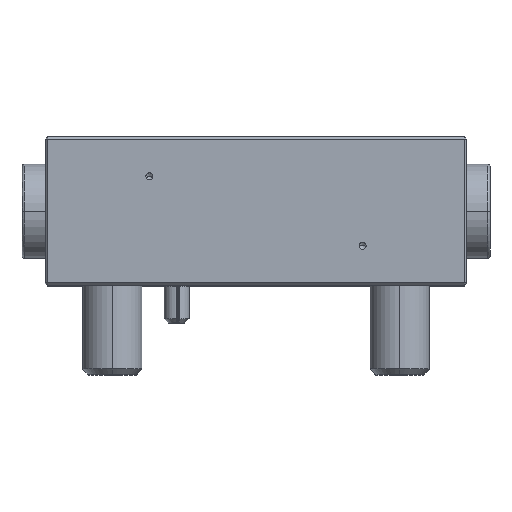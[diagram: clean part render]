
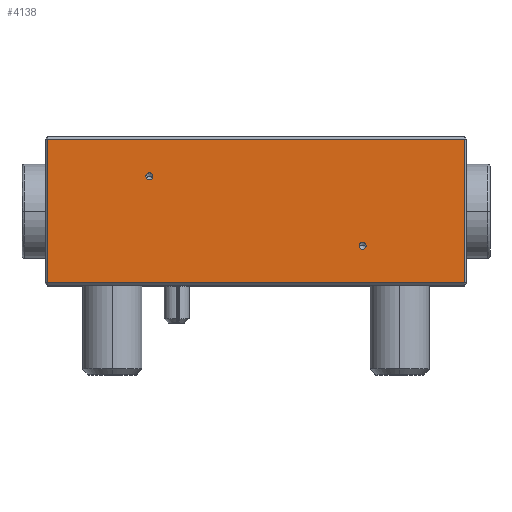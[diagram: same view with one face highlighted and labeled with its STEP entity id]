
A CAD part, top view. The second image highlights one B-rep face of the part: STEP entity #4138.
In plain terms, the highlighted planar face has unit normal (0, 0, 1).
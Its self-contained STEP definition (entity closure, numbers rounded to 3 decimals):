
#76 = VECTOR ( 'NONE', #12325, 1000. ) ;
#177 = EDGE_CURVE ( 'NONE', #11510, #16612, #6841, .T. ) ;
#407 = DIRECTION ( 'NONE',  ( 0., 0., 1. ) ) ;
#1333 = EDGE_LOOP ( 'NONE', ( #9316, #4402, #10310, #13457 ) ) ;
#1381 = VERTEX_POINT ( 'NONE', #16107 ) ;
#1547 = VECTOR ( 'NONE', #8639, 1000. ) ;
#1574 = PLANE ( 'NONE',  #8105 ) ;
#1631 = DIRECTION ( 'NONE',  ( 0., 0., -1. ) ) ;
#1641 = AXIS2_PLACEMENT_3D ( 'NONE', #9896, #2194, #11194 ) ;
#2002 = EDGE_CURVE ( 'NONE', #5449, #1381, #6940, .T. ) ;
#2070 = AXIS2_PLACEMENT_3D ( 'NONE', #9829, #2125, #11114 ) ;
#2094 = EDGE_CURVE ( 'NONE', #16612, #11827, #8778, .T. ) ;
#2119 = EDGE_LOOP ( 'NONE', ( #3107, #4164 ) ) ;
#2125 = DIRECTION ( 'NONE',  ( 0., 0., 1. ) ) ;
#2194 = DIRECTION ( 'NONE',  ( 0., 0., 1. ) ) ;
#2335 = CARTESIAN_POINT ( 'NONE',  ( 20.3, 7., 42.5 ) ) ;
#3107 = ORIENTED_EDGE ( 'NONE', *, *, #6928, .F. ) ;
#3328 = CARTESIAN_POINT ( 'NONE',  ( 85., -14.5, 42.5 ) ) ;
#3848 = CARTESIAN_POINT ( 'NONE',  ( 0.5, -14.5, 42.5 ) ) ;
#4138 = ADVANCED_FACE ( 'NONE', ( #12700, #9318, #5868 ), #1574, .F. ) ;
#4150 = EDGE_CURVE ( 'NONE', #13960, #8136, #14537, .T. ) ;
#4164 = ORIENTED_EDGE ( 'NONE', *, *, #2002, .F. ) ;
#4402 = ORIENTED_EDGE ( 'NONE', *, *, #2094, .T. ) ;
#4633 = CARTESIAN_POINT ( 'NONE',  ( 64., -7., 42.5 ) ) ;
#4751 = CARTESIAN_POINT ( 'NONE',  ( 84.5, -15., 42.5 ) ) ;
#4814 = CARTESIAN_POINT ( 'NONE',  ( 84.5, -14.5, 42.5 ) ) ;
#5449 = VERTEX_POINT ( 'NONE', #10073 ) ;
#5534 = CIRCLE ( 'NONE', #1641, 0.7 ) ;
#5868 = FACE_BOUND ( 'NONE', #2119, .T. ) ;
#5928 = DIRECTION ( 'NONE',  ( 1., 0., 0. ) ) ;
#6452 = LINE ( 'NONE', #10436, #12888 ) ;
#6841 = LINE ( 'NONE', #3328, #76 ) ;
#6863 = VERTEX_POINT ( 'NONE', #9682 ) ;
#6928 = EDGE_CURVE ( 'NONE', #1381, #5449, #5534, .T. ) ;
#6940 = CIRCLE ( 'NONE', #10154, 0.7 ) ;
#7213 = AXIS2_PLACEMENT_3D ( 'NONE', #8052, #407, #9383 ) ;
#7541 = EDGE_CURVE ( 'NONE', #8136, #13960, #13554, .T. ) ;
#8052 = CARTESIAN_POINT ( 'NONE',  ( 21., 7., 42.5 ) ) ;
#8105 = AXIS2_PLACEMENT_3D ( 'NONE', #9323, #1631, #10632 ) ;
#8116 = CARTESIAN_POINT ( 'NONE',  ( 21.7, 7., 42.5 ) ) ;
#8136 = VERTEX_POINT ( 'NONE', #2335 ) ;
#8320 = EDGE_CURVE ( 'NONE', #11827, #6863, #6452, .T. ) ;
#8639 = DIRECTION ( 'NONE',  ( 0., 1., 0. ) ) ;
#8778 = LINE ( 'NONE', #4751, #1547 ) ;
#9194 = ORIENTED_EDGE ( 'NONE', *, *, #7541, .F. ) ;
#9316 = ORIENTED_EDGE ( 'NONE', *, *, #177, .T. ) ;
#9318 = FACE_BOUND ( 'NONE', #10619, .T. ) ;
#9323 = CARTESIAN_POINT ( 'NONE',  ( 85., -15., 42.5 ) ) ;
#9383 = DIRECTION ( 'NONE',  ( 1., 0., 0. ) ) ;
#9682 = CARTESIAN_POINT ( 'NONE',  ( 0.5, 14.5, 42.5 ) ) ;
#9829 = CARTESIAN_POINT ( 'NONE',  ( 21., 7., 42.5 ) ) ;
#9896 = CARTESIAN_POINT ( 'NONE',  ( 64., -7., 42.5 ) ) ;
#10061 = LINE ( 'NONE', #13226, #16487 ) ;
#10073 = CARTESIAN_POINT ( 'NONE',  ( 63.3, -7., 42.5 ) ) ;
#10154 = AXIS2_PLACEMENT_3D ( 'NONE', #4633, #13655, #5928 ) ;
#10310 = ORIENTED_EDGE ( 'NONE', *, *, #8320, .T. ) ;
#10436 = CARTESIAN_POINT ( 'NONE',  ( 85., 14.5, 42.5 ) ) ;
#10619 = EDGE_LOOP ( 'NONE', ( #14149, #9194 ) ) ;
#10632 = DIRECTION ( 'NONE',  ( -1., 0., 0. ) ) ;
#11114 = DIRECTION ( 'NONE',  ( 1., 0., 0. ) ) ;
#11194 = DIRECTION ( 'NONE',  ( 1., 0., 0. ) ) ;
#11365 = CARTESIAN_POINT ( 'NONE',  ( 84.5, 14.5, 42.5 ) ) ;
#11510 = VERTEX_POINT ( 'NONE', #3848 ) ;
#11711 = DIRECTION ( 'NONE',  ( -1., 0., 0. ) ) ;
#11827 = VERTEX_POINT ( 'NONE', #11365 ) ;
#12325 = DIRECTION ( 'NONE',  ( 1., 0., 0. ) ) ;
#12700 = FACE_OUTER_BOUND ( 'NONE', #1333, .T. ) ;
#12888 = VECTOR ( 'NONE', #11711, 1000. ) ;
#13226 = CARTESIAN_POINT ( 'NONE',  ( 0.5, -15., 42.5 ) ) ;
#13457 = ORIENTED_EDGE ( 'NONE', *, *, #16329, .T. ) ;
#13554 = CIRCLE ( 'NONE', #2070, 0.7 ) ;
#13655 = DIRECTION ( 'NONE',  ( 0., 0., 1. ) ) ;
#13960 = VERTEX_POINT ( 'NONE', #8116 ) ;
#14149 = ORIENTED_EDGE ( 'NONE', *, *, #4150, .F. ) ;
#14523 = DIRECTION ( 'NONE',  ( 0., -1., 0. ) ) ;
#14537 = CIRCLE ( 'NONE', #7213, 0.7 ) ;
#16107 = CARTESIAN_POINT ( 'NONE',  ( 64.7, -7., 42.5 ) ) ;
#16329 = EDGE_CURVE ( 'NONE', #6863, #11510, #10061, .T. ) ;
#16487 = VECTOR ( 'NONE', #14523, 1000. ) ;
#16612 = VERTEX_POINT ( 'NONE', #4814 ) ;
